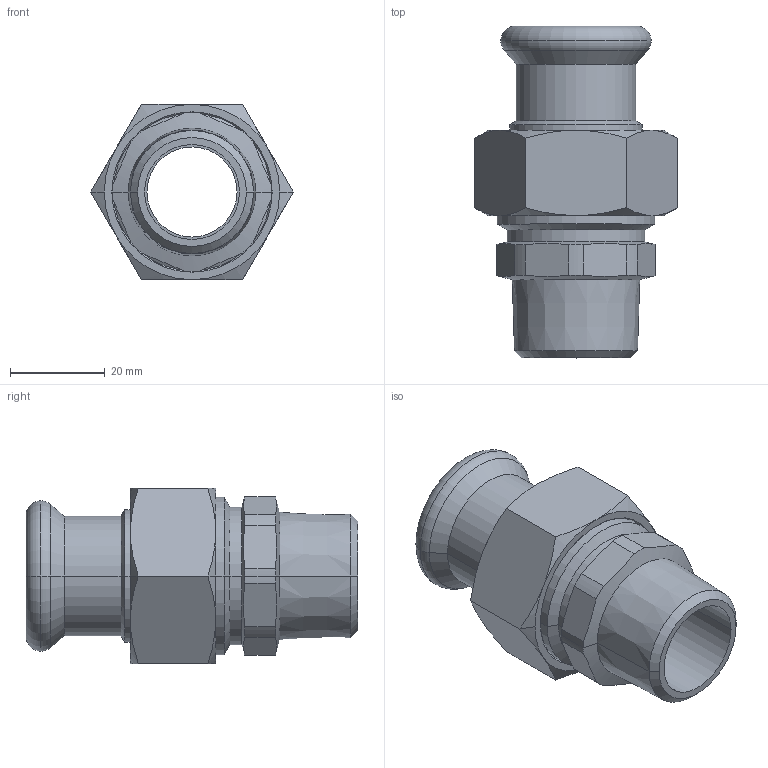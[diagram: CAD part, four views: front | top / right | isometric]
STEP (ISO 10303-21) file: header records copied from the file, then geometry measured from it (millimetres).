
FILE_DESCRIPTION(('CoCreate Modeling STEP Export'),'2;1');
FILE_NAME('C1435 22xR3-4.stp','2014-11-12T16:31:18',(''),(''),'CoCreate Modeling STEP processor for AP214 (Solid Model)','CoCreate Modeling 17.00A 17-Jun-2010 (C) Parametric Technology GmbH','');
FILE_SCHEMA(('AUTOMOTIVE_DESIGN { 1 0 10303 214 1 1 1 1 }'));
Length unit declared in the file: millimetre
Products named in the file (2): C1435_22xR3-4
Assembly tree (1 placements, depth 2):
  C1435_22xR3-4
    C1435_22xR3-4
Bounding box: 42.72 x 70 x 37 mm (x, y, z)
Volume: 28077.8 mm3; surface area: 15574.5 mm2
Topology: 1 solids, 1 shells, 107 faces, 248 edges, 150 vertices
Faces by surface type: cone 42, cylinder 34, plane 23, torus 8
Entity records: 4255 total; most frequent: CARTESIAN_POINT 2143, ORIENTED_EDGE 496, DIRECTION 330, EDGE_CURVE 248, VERTEX_POINT 150, AXIS2_PLACEMENT_3D 123, EDGE_LOOP 116, FACE_OUTER_BOUND 107
